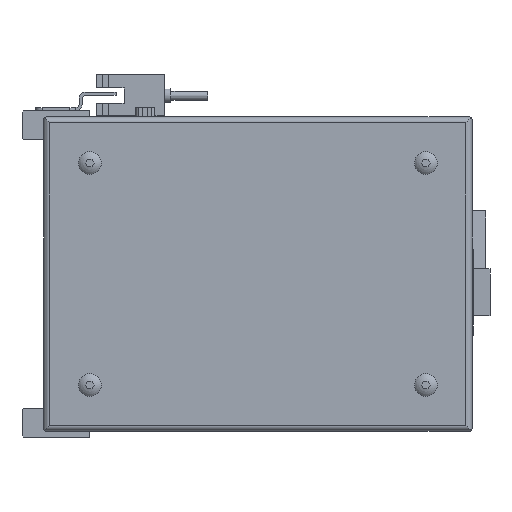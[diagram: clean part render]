
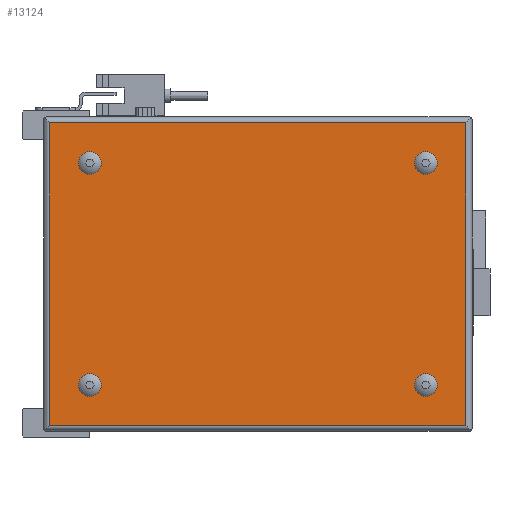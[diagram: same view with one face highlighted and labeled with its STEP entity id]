
A CAD part, left-side view. The second image highlights one B-rep face of the part: STEP entity #13124.
In plain terms, the highlighted planar face has unit normal (-1, 0, 0).
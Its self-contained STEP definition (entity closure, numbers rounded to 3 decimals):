
#362=PLANE('',#14073);
#1102=LINE('',#19947,#2417);
#1103=LINE('',#19950,#2418);
#1104=LINE('',#19952,#2419);
#1105=LINE('',#19954,#2420);
#2417=VECTOR('',#16050,1000.);
#2418=VECTOR('',#16051,1000.);
#2419=VECTOR('',#16052,1000.);
#2420=VECTOR('',#16053,1000.);
#4307=ORIENTED_EDGE('',*,*,#7596,.F.);
#4308=ORIENTED_EDGE('',*,*,#7597,.F.);
#4309=ORIENTED_EDGE('',*,*,#7598,.F.);
#4310=ORIENTED_EDGE('',*,*,#7599,.F.);
#4311=ORIENTED_EDGE('',*,*,#7600,.T.);
#4312=ORIENTED_EDGE('',*,*,#7601,.F.);
#4313=ORIENTED_EDGE('',*,*,#7602,.F.);
#4314=ORIENTED_EDGE('',*,*,#7603,.T.);
#7596=EDGE_CURVE('',#9332,#9332,#10396,.F.);
#7597=EDGE_CURVE('',#9333,#9333,#10397,.F.);
#7598=EDGE_CURVE('',#9334,#9334,#10398,.F.);
#7599=EDGE_CURVE('',#9335,#9335,#10399,.F.);
#7600=EDGE_CURVE('',#9336,#9337,#1102,.F.);
#7601=EDGE_CURVE('',#9338,#9337,#1103,.T.);
#7602=EDGE_CURVE('',#9339,#9338,#1104,.F.);
#7603=EDGE_CURVE('',#9339,#9336,#1105,.T.);
#9332=VERTEX_POINT('',#19940);
#9333=VERTEX_POINT('',#19942);
#9334=VERTEX_POINT('',#19944);
#9335=VERTEX_POINT('',#19946);
#9336=VERTEX_POINT('',#19948);
#9337=VERTEX_POINT('',#19949);
#9338=VERTEX_POINT('',#19951);
#9339=VERTEX_POINT('',#19953);
#10396=CIRCLE('',#14074,3.7);
#10397=CIRCLE('',#14075,3.7);
#10398=CIRCLE('',#14076,3.7);
#10399=CIRCLE('',#14077,3.7);
#10989=EDGE_LOOP('',(#4307));
#10990=EDGE_LOOP('',(#4308));
#10991=EDGE_LOOP('',(#4309));
#10992=EDGE_LOOP('',(#4310));
#10993=EDGE_LOOP('',(#4311,#4312,#4313,#4314));
#11974=FACE_BOUND('',#10989,.T.);
#11975=FACE_BOUND('',#10990,.T.);
#11976=FACE_BOUND('',#10991,.T.);
#11977=FACE_BOUND('',#10992,.T.);
#11978=FACE_BOUND('',#10993,.T.);
#13124=ADVANCED_FACE('',(#11974,#11975,#11976,#11977,#11978),#362,.F.);
#14073=AXIS2_PLACEMENT_3D('',#19938,#16040,#16041);
#14074=AXIS2_PLACEMENT_3D('',#19939,#16042,#16043);
#14075=AXIS2_PLACEMENT_3D('',#19941,#16044,#16045);
#14076=AXIS2_PLACEMENT_3D('',#19943,#16046,#16047);
#14077=AXIS2_PLACEMENT_3D('',#19945,#16048,#16049);
#16040=DIRECTION('',(1.,0.,0.));
#16041=DIRECTION('',(0.,0.,-1.));
#16042=DIRECTION('',(1.,0.,0.));
#16043=DIRECTION('',(0.,0.,-1.));
#16044=DIRECTION('',(1.,0.,0.));
#16045=DIRECTION('',(0.,0.,-1.));
#16046=DIRECTION('',(1.,0.,0.));
#16047=DIRECTION('',(0.,0.,-1.));
#16048=DIRECTION('',(1.,0.,0.));
#16049=DIRECTION('',(0.,0.,-1.));
#16050=DIRECTION('',(0.,-1.,0.));
#16051=DIRECTION('',(0.,0.,1.));
#16052=DIRECTION('',(0.,-1.,0.));
#16053=DIRECTION('',(0.,0.,1.));
#19938=CARTESIAN_POINT('',(-52.,-75.,50.));
#19939=CARTESIAN_POINT('',(-52.,-61.,36.));
#19940=CARTESIAN_POINT('',(-52.,-61.,32.3));
#19941=CARTESIAN_POINT('',(-52.,-61.,-36.));
#19942=CARTESIAN_POINT('',(-52.,-61.,-39.7));
#19943=CARTESIAN_POINT('',(-52.,48.,36.));
#19944=CARTESIAN_POINT('',(-52.,48.,32.3));
#19945=CARTESIAN_POINT('',(-52.,48.,-36.));
#19946=CARTESIAN_POINT('',(-52.,48.,-39.7));
#19947=CARTESIAN_POINT('',(-52.,139.,49.));
#19948=CARTESIAN_POINT('',(-52.,-74.,49.));
#19949=CARTESIAN_POINT('',(-52.,61.,49.));
#19950=CARTESIAN_POINT('',(-52.,61.,-102.));
#19951=CARTESIAN_POINT('',(-52.,61.,-49.));
#19952=CARTESIAN_POINT('',(-52.,139.,-49.));
#19953=CARTESIAN_POINT('',(-52.,-74.,-49.));
#19954=CARTESIAN_POINT('',(-52.,-74.,-102.));
